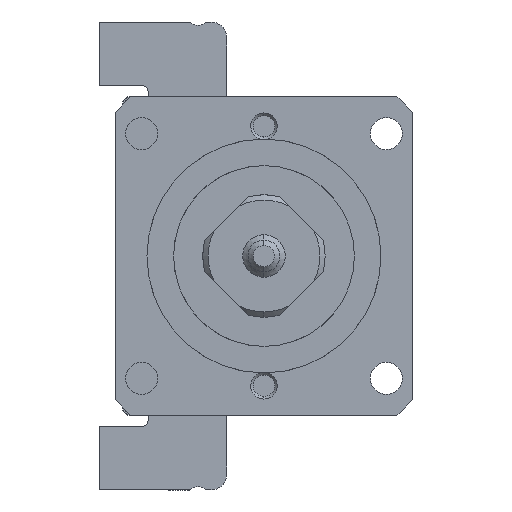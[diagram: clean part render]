
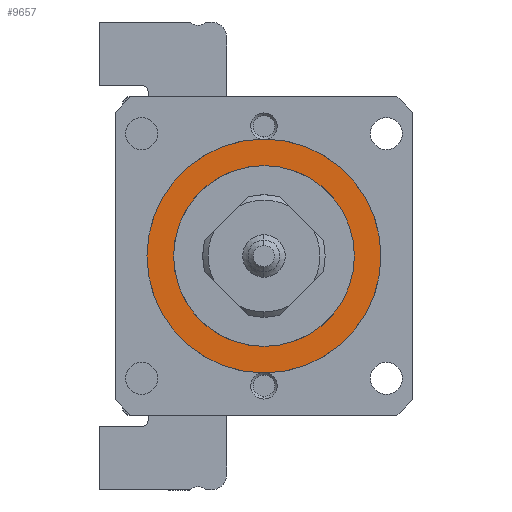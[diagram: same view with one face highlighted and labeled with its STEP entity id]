
A CAD part, left-side view. The second image highlights one B-rep face of the part: STEP entity #9657.
In plain terms, the highlighted planar face has unit normal (-1, 0, 0).
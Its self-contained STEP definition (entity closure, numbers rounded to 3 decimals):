
#76 = EDGE_LOOP ( 'NONE', ( #14240, #14779 ) ) ;
#77 = EDGE_LOOP ( 'NONE', ( #14287, #14827 ) ) ;
#1118 = CARTESIAN_POINT ( 'NONE',  ( -48., 0., 0. ) ) ;
#1119 = DIRECTION ( 'NONE',  ( -1., 0., 0. ) ) ;
#1120 = DIRECTION ( 'NONE',  ( 0., 0., 1. ) ) ;
#1121 = CARTESIAN_POINT ( 'NONE',  ( -48., 0., 0. ) ) ;
#1122 = DIRECTION ( 'NONE',  ( -1., 0., 0. ) ) ;
#1123 = DIRECTION ( 'NONE',  ( 0., 0., 1. ) ) ;
#1176 = CARTESIAN_POINT ( 'NONE',  ( -48., 0., 0. ) ) ;
#1177 = DIRECTION ( 'NONE',  ( -1., 0., 0. ) ) ;
#1178 = DIRECTION ( 'NONE',  ( 0., 0., 1. ) ) ;
#3685 = PLANE ( 'NONE',  #17074 ) ;
#3686 = CARTESIAN_POINT ( 'NONE',  ( -48., 9.75, 0. ) ) ;
#3687 = DIRECTION ( 'NONE',  ( 1., 0., 0. ) ) ;
#3688 = DIRECTION ( 'NONE',  ( 0., 0., -1. ) ) ;
#5498 = CARTESIAN_POINT ( 'NONE',  ( -48., 0., 0. ) ) ;
#5499 = DIRECTION ( 'NONE',  ( -1., 0., 0. ) ) ;
#5500 = DIRECTION ( 'NONE',  ( 0., 0., 1. ) ) ;
#5952 = FACE_BOUND ( 'NONE', #77, .T. ) ;
#5958 = FACE_OUTER_BOUND ( 'NONE', #76, .T. ) ;
#6414 = CIRCLE ( 'NONE', #16921, 11. ) ;
#8831 = EDGE_CURVE ( 'NONE', #8958, #8957, #6414, .T. ) ;
#8957 = VERTEX_POINT ( 'NONE', #18255 ) ;
#8958 = VERTEX_POINT ( 'NONE', #18257 ) ;
#8999 = VERTEX_POINT ( 'NONE', #18333 ) ;
#9000 = VERTEX_POINT ( 'NONE', #18335 ) ;
#9657 = ADVANCED_FACE ( 'NONE', ( #5958, #5952 ), #3685, .F. ) ;
#10252 = EDGE_CURVE ( 'NONE', #9000, #8999, #12148, .T. ) ;
#10253 = EDGE_CURVE ( 'NONE', #8999, #9000, #12147, .T. ) ;
#10274 = EDGE_CURVE ( 'NONE', #8957, #8958, #12177, .T. ) ;
#12147 = CIRCLE ( 'NONE', #13426, 8.5 ) ;
#12148 = CIRCLE ( 'NONE', #13425, 8.5 ) ;
#12177 = CIRCLE ( 'NONE', #13437, 11. ) ;
#13425 = AXIS2_PLACEMENT_3D ( 'NONE', #1118, #1119, #1120 ) ;
#13426 = AXIS2_PLACEMENT_3D ( 'NONE', #1121, #1122, #1123 ) ;
#13437 = AXIS2_PLACEMENT_3D ( 'NONE', #1176, #1177, #1178 ) ;
#14240 = ORIENTED_EDGE ( 'NONE', *, *, #8831, .T. ) ;
#14287 = ORIENTED_EDGE ( 'NONE', *, *, #10252, .F. ) ;
#14779 = ORIENTED_EDGE ( 'NONE', *, *, #10274, .T. ) ;
#14827 = ORIENTED_EDGE ( 'NONE', *, *, #10253, .F. ) ;
#16921 = AXIS2_PLACEMENT_3D ( 'NONE', #5498, #5499, #5500 ) ;
#17074 = AXIS2_PLACEMENT_3D ( 'NONE', #3686, #3687, #3688 ) ;
#18255 = CARTESIAN_POINT ( 'NONE',  ( -48., 0., -11. ) ) ;
#18257 = CARTESIAN_POINT ( 'NONE',  ( -48., 0., 11. ) ) ;
#18333 = CARTESIAN_POINT ( 'NONE',  ( -48., 0., -8.5 ) ) ;
#18335 = CARTESIAN_POINT ( 'NONE',  ( -48., 0., 8.5 ) ) ;
